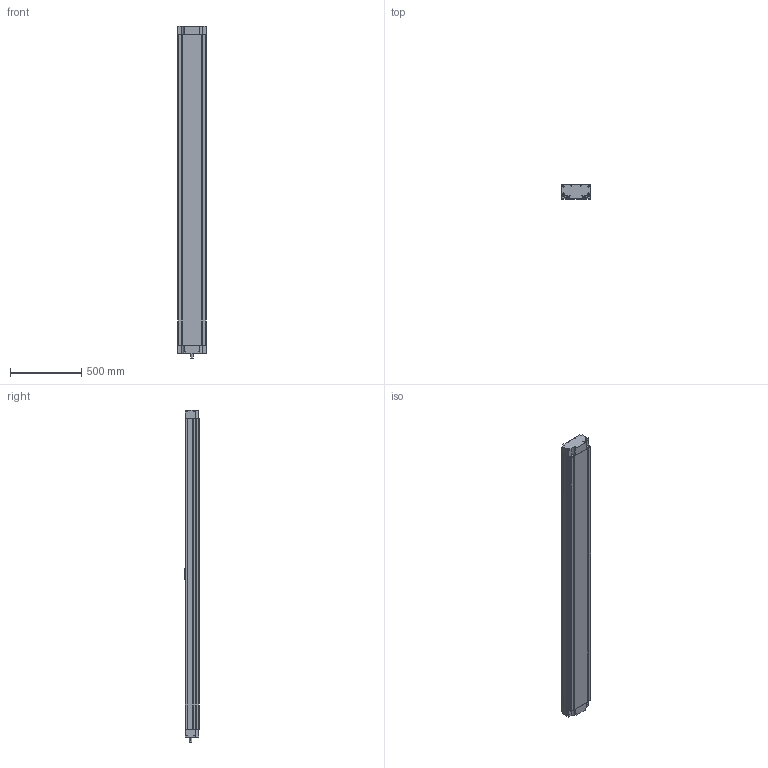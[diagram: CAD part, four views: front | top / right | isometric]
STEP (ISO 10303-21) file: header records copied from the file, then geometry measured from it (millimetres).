
FILE_DESCRIPTION (( 'STEP AP203' ), '1' );
FILE_NAME ('MSY200B-2000-LL3210-P7.STEP', '2013-11-02T05:26:17', ( '微软用户' ), ( '微软中国' ), 'SwSTEP 2.0', 'SolidWorks 2010', '' );
FILE_SCHEMA (( 'CONFIG_CONTROL_DESIGN' ));
Length unit declared in the file: millimetre
Products named in the file (1): MSY200B-2000-LL3210-P7
Bounding box: 200.2 x 99.96 x 2331 mm (x, y, z)
Volume: 41592333 mm3; surface area: 2312190.7 mm2
Topology: 1 solids, 1 shells, 326 faces, 855 edges, 552 vertices
Faces by surface type: plane 220, cylinder 98, cone 8
Entity records: 10045 total; most frequent: CARTESIAN_POINT 1756, DIRECTION 1702, ORIENTED_EDGE 1694, EDGE_CURVE 847, VECTOR 642, LINE 642, VERTEX_POINT 552, AXIS2_PLACEMENT_3D 530
